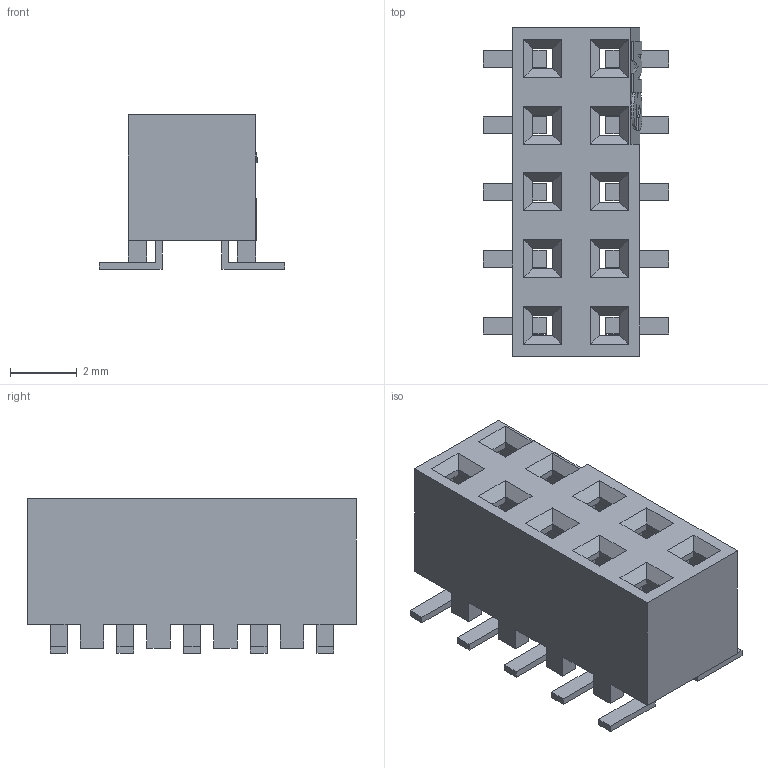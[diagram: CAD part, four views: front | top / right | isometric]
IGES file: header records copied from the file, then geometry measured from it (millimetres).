
Start section: Comment
Global section: file name: 150210-2000SE.igs; native system:  By Spatial Corp. IGES DAT; preprocessor: XIGES V1.0; author: Author; organization: Title; date: 20060905.140811; units: metre
Bounding box: 5.59 x 9.88 x 4.65 mm (x, y, z)
Volume: 117.1 mm3; surface area: 370.7 mm2
Topology: 1 solids, 1 shells, 294 faces, 768 edges, 498 vertices
Faces by surface type: plane 288, extrusion 6
